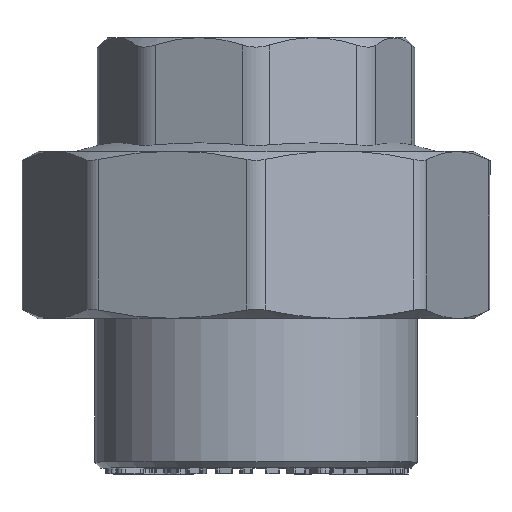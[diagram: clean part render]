
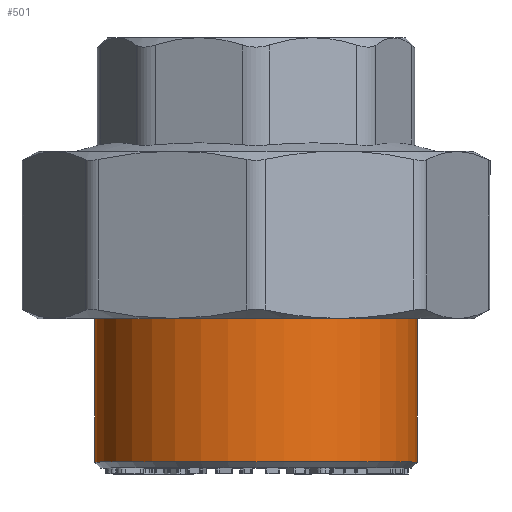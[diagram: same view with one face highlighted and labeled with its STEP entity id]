
A CAD part, top view. The second image highlights one B-rep face of the part: STEP entity #501.
In plain terms, the highlighted cylindrical face has radius 13.5 mm (diameter 27 mm), a full revolution.
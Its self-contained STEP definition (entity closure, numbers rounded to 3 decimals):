
#501=ADVANCED_FACE('',(#3730,#3732),#3734,.T.);
#3730=FACE_OUTER_BOUND('',#3731,.T.);
#3731=EDGE_LOOP('',(#8462));
#3732=FACE_OUTER_BOUND('',#3733,.T.);
#3733=EDGE_LOOP('',(#8463));
#3734=CYLINDRICAL_SURFACE('',#3735,13.5);
#3735=AXIS2_PLACEMENT_3D('',#3736,#3737,#3738);
#3736=CARTESIAN_POINT('',(0.,0.,0.));
#3737=DIRECTION('',(0.,1.,0.));
#3738=DIRECTION('',(-1.,0.,0.));
#8462=ORIENTED_EDGE('',*,*,#11750,.F.);
#8463=ORIENTED_EDGE('',*,*,#10901,.T.);
#10901=EDGE_CURVE('',#13315,#13315,#13316,.T.);
#11750=EDGE_CURVE('',#14590,#14590,#14591,.T.);
#13315=VERTEX_POINT('',#18571);
#13316=CIRCLE('',#18572,13.5);
#14590=VERTEX_POINT('',#21546);
#14591=CIRCLE('',#21547,13.5);
#18571=CARTESIAN_POINT('',(-13.5,0.5,0.));
#18572=AXIS2_PLACEMENT_3D('',#18573,#18574,#18575);
#18573=CARTESIAN_POINT('',(0.,0.5,0.));
#18574=DIRECTION('',(0.,1.,0.));
#18575=DIRECTION('',(-1.,0.,0.));
#21546=CARTESIAN_POINT('',(-13.5,14.5,0.));
#21547=AXIS2_PLACEMENT_3D('',#21548,#21549,#21550);
#21548=CARTESIAN_POINT('',(0.,14.5,0.));
#21549=DIRECTION('',(0.,1.,0.));
#21550=DIRECTION('',(-1.,0.,0.));
